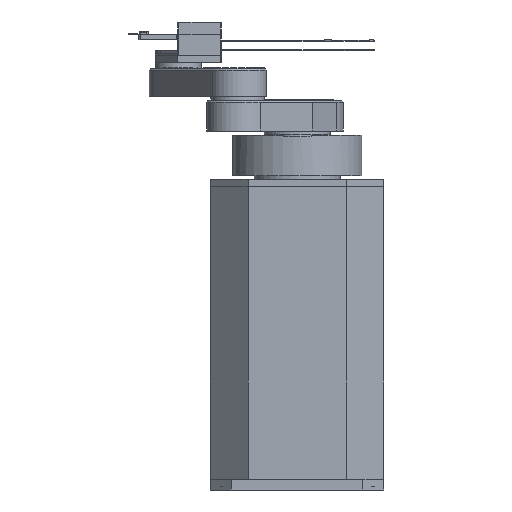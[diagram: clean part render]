
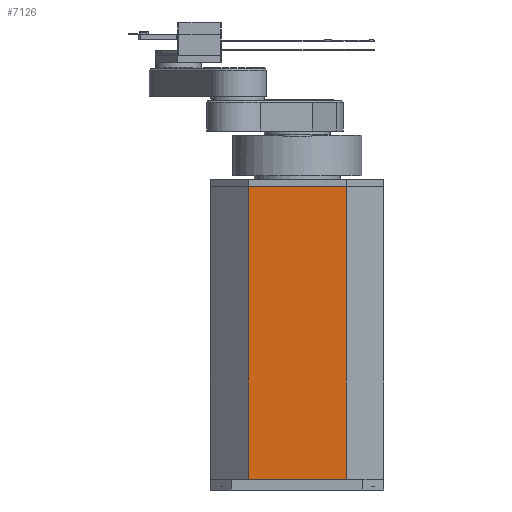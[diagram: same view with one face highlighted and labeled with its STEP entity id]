
A CAD part, front view. The second image highlights one B-rep face of the part: STEP entity #7126.
In plain terms, the highlighted planar face has unit normal (0, -1, 0).
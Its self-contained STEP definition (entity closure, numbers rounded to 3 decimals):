
#247=LINE('',#10722,#971);
#275=LINE('',#10778,#999);
#277=LINE('',#10782,#1001);
#278=LINE('',#10783,#1002);
#971=VECTOR('',#8589,135.998);
#999=VECTOR('',#8643,405.);
#1001=VECTOR('',#8647,405.);
#1002=VECTOR('',#8648,135.998);
#1627=PLANE('',#7628);
#2138=FACE_OUTER_BOUND('',#2601,.T.);
#2601=EDGE_LOOP('',(#5384,#5385,#5386,#5387));
#3471=VERTEX_POINT('',#10719);
#3472=VERTEX_POINT('',#10721);
#3487=VERTEX_POINT('',#10777);
#3488=VERTEX_POINT('',#10781);
#4200=EDGE_CURVE('',#3472,#3471,#247,.T.);
#4228=EDGE_CURVE('',#3487,#3472,#275,.T.);
#4230=EDGE_CURVE('',#3488,#3471,#277,.T.);
#4231=EDGE_CURVE('',#3487,#3488,#278,.T.);
#5384=ORIENTED_EDGE('',*,*,#4200,.T.);
#5385=ORIENTED_EDGE('',*,*,#4230,.F.);
#5386=ORIENTED_EDGE('',*,*,#4231,.F.);
#5387=ORIENTED_EDGE('',*,*,#4228,.T.);
#7126=ADVANCED_FACE('',(#2138),#1627,.T.);
#7628=AXIS2_PLACEMENT_3D('',#10780,#8645,#8646);
#8589=DIRECTION('',(-1.,0.,0.));
#8643=DIRECTION('',(0.,0.,1.));
#8645=DIRECTION('center_axis',(0.,-1.,0.));
#8646=DIRECTION('ref_axis',(0.,0.,-1.));
#8647=DIRECTION('',(0.,0.,1.));
#8648=DIRECTION('',(-1.,0.,0.));
#10719=CARTESIAN_POINT('',(-67.999,-119.999,420.));
#10721=CARTESIAN_POINT('',(67.999,-119.999,420.));
#10722=CARTESIAN_POINT('',(67.999,-119.999,420.));
#10777=CARTESIAN_POINT('',(67.999,-119.999,15.));
#10778=CARTESIAN_POINT('',(67.999,-119.999,15.));
#10780=CARTESIAN_POINT('Origin',(67.999,-119.999,15.));
#10781=CARTESIAN_POINT('',(-67.999,-119.999,15.));
#10782=CARTESIAN_POINT('',(-67.999,-119.999,15.));
#10783=CARTESIAN_POINT('',(34.,-119.999,15.));
